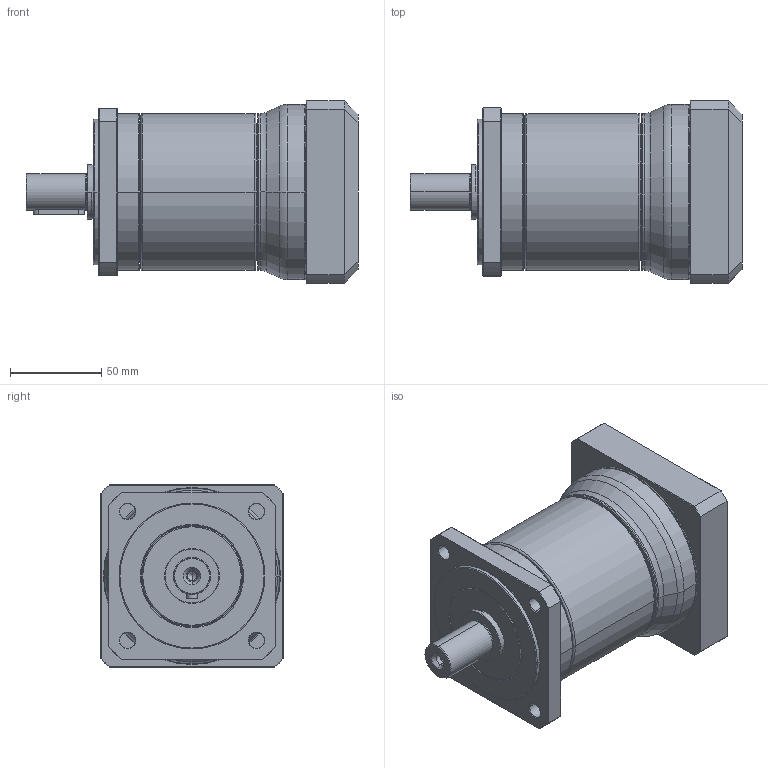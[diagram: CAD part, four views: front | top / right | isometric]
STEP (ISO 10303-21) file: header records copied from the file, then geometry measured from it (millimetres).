
FILE_DESCRIPTION((''),'2;1');
FILE_NAME('PG2-080A_2ST_24_P0411500101_ASM','2016-05-03T',('d01943'),(''),'PRO/ENGINEER BY PARAMETRIC TECHNOLOGY CORPORATION, 2008410','PRO/ENGINEER BY PARAMETRIC TECHNOLOGY CORPORATION, 2008410','');
FILE_SCHEMA(('CONFIG_CONTROL_DESIGN'));
Length unit declared in the file: millimetre
Products named in the file (9): P1326300001; P0251300001; P1324300201; P0350301103; P0941302001; P0503500008; P0411500101; P1702500001; PG2-080A_2ST_24_P0411500101_ASM
Assembly tree (8 placements, depth 2):
  PG2-080A_2ST_24_P0411500101_ASM
    P1326300001
    P0251300001
    P1324300201
    P0350301103
    P0941302001
    P0503500008
    P0411500101
    P1702500001
Bounding box: 182 x 100 x 100 mm (x, y, z)
Volume: 678052.2 mm3; surface area: 161132 mm2
Topology: 8 solids, 9 shells, 492 faces, 1084 edges, 626 vertices
Faces by surface type: cone 152, cylinder 141, torus 94, plane 93, bspline 12
Entity records: 18113 total; most frequent: CARTESIAN_POINT 6998, DIRECTION 2528, ORIENTED_EDGE 2112, AXIS2_PLACEMENT_3D 1080, EDGE_CURVE 1056, VERTEX_POINT 626, CIRCLE 583, EDGE_LOOP 562
